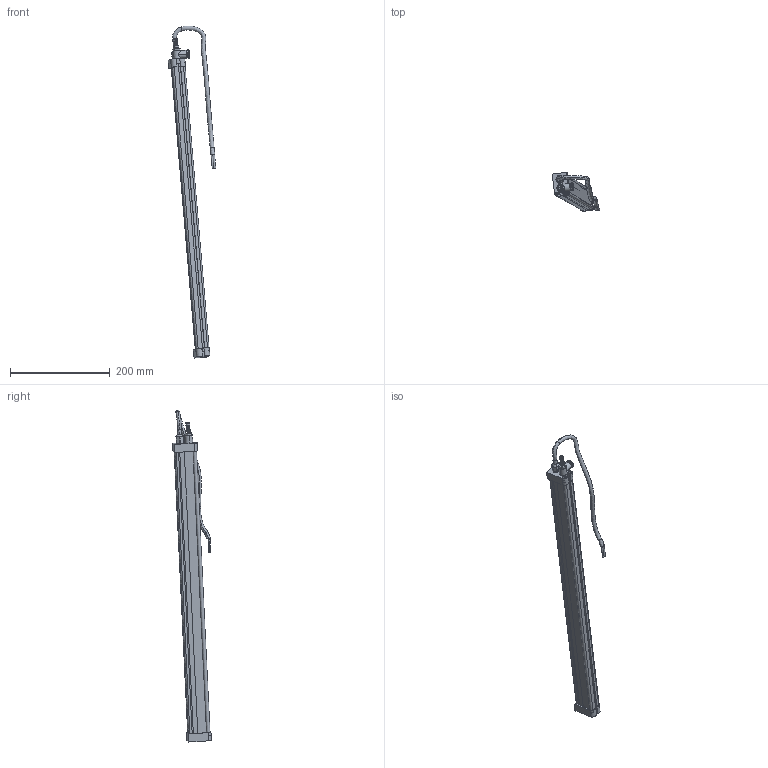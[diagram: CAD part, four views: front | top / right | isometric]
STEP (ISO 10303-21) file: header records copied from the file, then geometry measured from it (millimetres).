
FILE_DESCRIPTION (( 'STEP AP203' ), '1' );
FILE_NAME ('DR-069³ý¾²µç°ô.STEP', '2025-03-12T07:02:34', ( '' ), ( '' ), 'SwSTEP 2.0', 'SolidWorks 2020', '' );
FILE_SCHEMA (( 'CONFIG_CONTROL_DESIGN' ));
Length unit declared in the file: millimetre
Products named in the file (7): 呿蹋假蚾崠杶_1; DR-069壺噙萇堵; 衵傷諳_1; 褫覃ァ概_1; 絳盄_1; 酘傷諳_1; 蛹燭赽堵褲极_1
Assembly tree (6 placements, depth 2):
  DR-069壺噙萇堵
    蛹燭赽堵褲极_1
    呿蹋假蚾崠杶_1
    酘傷諳_1
    衵傷諳_1
    褫覃ァ概_1
    絳盄_1
Bounding box: 95.21 x 77.71 x 665.58 mm (x, y, z)
Volume: 406938.2 mm3; surface area: 299304.4 mm2
Topology: 7 solids, 8 shells, 1032 faces, 2802 edges, 1856 vertices
Faces by surface type: cylinder 659, plane 214, bspline 157, cone 2
Entity records: 62881 total; most frequent: CARTESIAN_POINT 37622, ORIENTED_EDGE 5602, DIRECTION 4215, EDGE_CURVE 2802, VERTEX_POINT 1856, AXIS2_PLACEMENT_3D 1604, EDGE_LOOP 1361, FACE_OUTER_BOUND 1032
